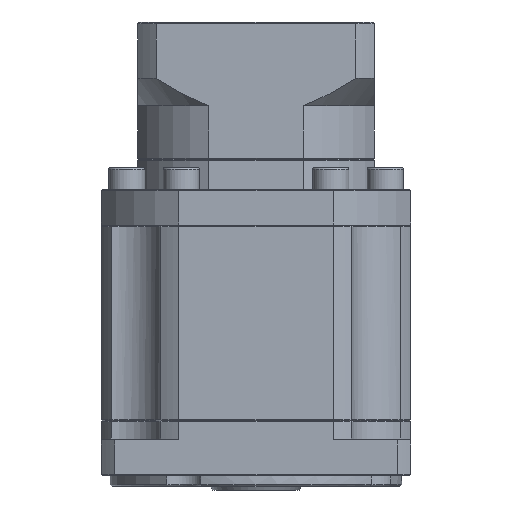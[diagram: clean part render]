
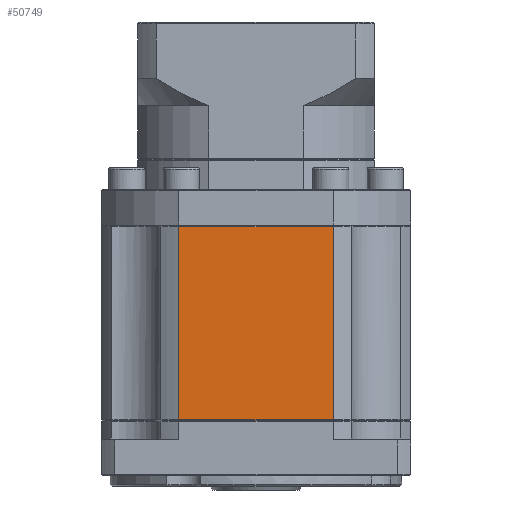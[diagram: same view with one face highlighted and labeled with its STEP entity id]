
A CAD part, front view. The second image highlights one B-rep face of the part: STEP entity #50749.
In plain terms, the highlighted planar face has unit normal (0, -1, 0).
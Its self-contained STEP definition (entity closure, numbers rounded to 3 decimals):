
#1403 = VERTEX_POINT ( 'NONE', #55267 ) ;
#3202 = CARTESIAN_POINT ( 'NONE',  ( -47.946, -16.224, -77.483 ) ) ;
#5660 = DIRECTION ( 'NONE',  ( -1., 0., 0. ) ) ;
#13104 = AXIS2_PLACEMENT_3D ( 'NONE', #91807, #40057, #100447 ) ;
#17782 = ORIENTED_EDGE ( 'NONE', *, *, #66220, .F. ) ;
#22368 = LINE ( 'NONE', #69948, #108856 ) ;
#22705 = VERTEX_POINT ( 'NONE', #91723 ) ;
#23500 = LINE ( 'NONE', #38483, #92500 ) ;
#24890 = DIRECTION ( 'NONE',  ( 1., 0., 0. ) ) ;
#25708 = EDGE_LOOP ( 'NONE', ( #82032, #40682, #41067, #17782 ) ) ;
#31182 = VERTEX_POINT ( 'NONE', #58692 ) ;
#36165 = EDGE_CURVE ( 'NONE', #1403, #64084, #22368, .T. ) ;
#38483 = CARTESIAN_POINT ( 'NONE',  ( -90.372, -16.224, -24.233 ) ) ;
#40057 = DIRECTION ( 'NONE',  ( 0., 1., 0. ) ) ;
#40682 = ORIENTED_EDGE ( 'NONE', *, *, #36165, .F. ) ;
#41067 = ORIENTED_EDGE ( 'NONE', *, *, #76105, .F. ) ;
#43488 = LINE ( 'NONE', #48953, #86722 ) ;
#48953 = CARTESIAN_POINT ( 'NONE',  ( -47.946, -16.224, -77.483 ) ) ;
#50749 = ADVANCED_FACE ( 'NONE', ( #104693 ), #100089, .F. ) ;
#55267 = CARTESIAN_POINT ( 'NONE',  ( -47.946, -16.224, -24.483 ) ) ;
#58692 = CARTESIAN_POINT ( 'NONE',  ( -90.372, -16.224, -77.483 ) ) ;
#64084 = VERTEX_POINT ( 'NONE', #3202 ) ;
#66220 = EDGE_CURVE ( 'NONE', #31182, #22705, #23500, .T. ) ;
#67362 = EDGE_CURVE ( 'NONE', #64084, #31182, #43488, .T. ) ;
#68067 = CARTESIAN_POINT ( 'NONE',  ( -69.159, -16.224, -24.483 ) ) ;
#69948 = CARTESIAN_POINT ( 'NONE',  ( -47.946, -16.224, -24.233 ) ) ;
#76105 = EDGE_CURVE ( 'NONE', #22705, #1403, #82547, .T. ) ;
#81199 = DIRECTION ( 'NONE',  ( 0., 0., 1. ) ) ;
#82032 = ORIENTED_EDGE ( 'NONE', *, *, #67362, .F. ) ;
#82547 = LINE ( 'NONE', #68067, #102698 ) ;
#86722 = VECTOR ( 'NONE', #5660, 1000. ) ;
#91723 = CARTESIAN_POINT ( 'NONE',  ( -90.372, -16.224, -24.483 ) ) ;
#91807 = CARTESIAN_POINT ( 'NONE',  ( -47.946, -16.224, -24.233 ) ) ;
#92500 = VECTOR ( 'NONE', #81199, 1000. ) ;
#95974 = DIRECTION ( 'NONE',  ( 0., 0., -1. ) ) ;
#100089 = PLANE ( 'NONE',  #13104 ) ;
#100447 = DIRECTION ( 'NONE',  ( 0., 0., 1. ) ) ;
#102698 = VECTOR ( 'NONE', #24890, 1000. ) ;
#104693 = FACE_OUTER_BOUND ( 'NONE', #25708, .T. ) ;
#108856 = VECTOR ( 'NONE', #95974, 1000. ) ;
